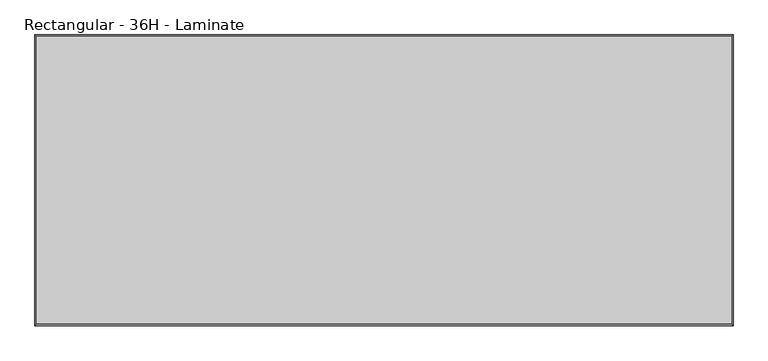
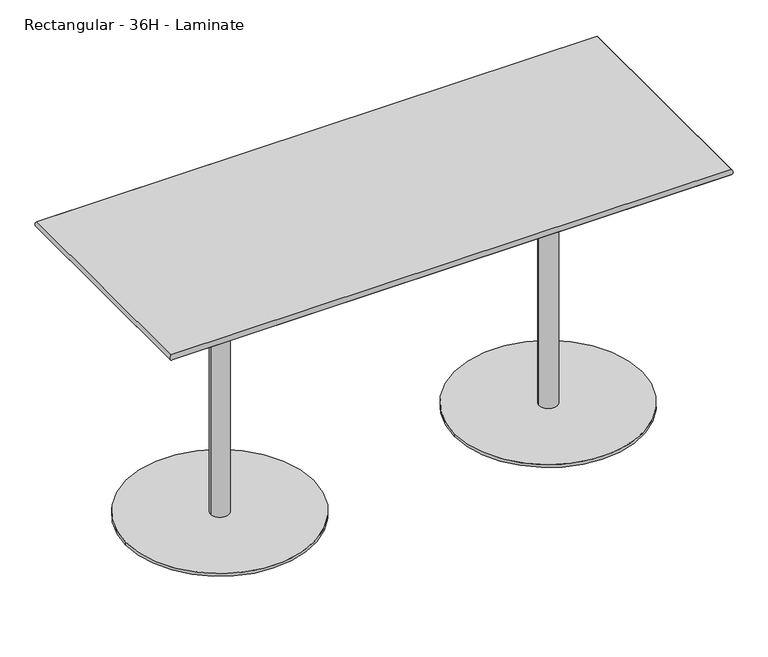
"""IFC4 building model written with IfcOpenShell, lengths in millimetres: furniture geometry, Steelcase Coalesse - Enea - Table - Double Base : Rectangular - 36H - Laminate."""

from ifc_helpers import new_model, si_unit, point, frame, frame_2d, origin, origin_with_axes, place, context, project, spatial, polyline, circle_curve, ellipse_curve, trimmed, segment, composite_curve, outline, extrude, source, transform, mapped, element, save
from ifc_brep_helpers import plane_surface, cylinder_surface, advanced_brep


def rectangular_36h_laminate_8bdba8d7(model_context):
    return source(origin(), model_context, "Body", "SolidModel", [
        advanced_brep(
        [(-1205.8132353, -914.4181244, 914.4), (-1205.8132353, -914.4181244, 895.35), (614.3872896, -914.4181244, 895.35), (614.3872896, -914.4181244, 914.4), (614.3872896, -161.0175995, 895.35), (614.3872896, -161.0175995, 914.4), (-1205.8132353, -161.0175995, 895.35), (-1205.8132353, -161.0175995, 914.4)],
        [
            (0, 1, ellipse_curve(frame((-1196.3937054, -904.9985945, 904.875), z_axis=(0.7071067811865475, -0.7071067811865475, 0.0), x_axis=(-0.7071067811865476, -0.7071067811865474, 0.0)), 18.9448235, 13.3960131)),
            (1, 2),
            (2, 3, ellipse_curve(frame((604.9677598, -904.9985945, 904.875), z_axis=(-0.7071067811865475, -0.7071067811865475, 0.0), x_axis=(-0.7071067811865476, 0.7071067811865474, 0.0)), 18.9448235, 13.3960131)),
            (3, 0),
            (1, 0),
            (3, 2),
            (2, 4),
            (4, 5, ellipse_curve(frame((604.9677598, -170.4371294, 904.875), z_axis=(0.7071067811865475, -0.7071067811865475, 0.0), x_axis=(-0.7071067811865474, -0.7071067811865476, 0.0)), 18.9448235, 13.3960131)),
            (5, 3),
            (5, 4),
            (4, 6),
            (6, 7, ellipse_curve(frame((-1196.3937054, -170.4371294, 904.875), z_axis=(0.7071067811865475, 0.7071067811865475, 0.0), x_axis=(0.7071067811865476, -0.7071067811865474, 0.0)), 18.9448235, 13.3960131)),
            (7, 5),
            (7, 6),
            (6, 1),
            (0, 7),
        ],
        [
            cylinder_surface(frame((-1205.8132353, -904.9985945, 904.875), z_axis=(-1.0, 0.0, 0.0), x_axis=(0.0, 1.0, 0.0)), 13.3960131),
            plane_surface(frame((-1205.8132353, -914.4181244, 914.4), z_axis=(0.0, 1.0, 0.0), x_axis=(1.0, 0.0, 0.0))),
            cylinder_surface(frame((604.9677598, -914.4181244, 904.875), z_axis=(0.0, -1.0, 0.0), x_axis=(-1.0, 0.0, 0.0)), 13.3960131),
            plane_surface(frame((614.3872896, -914.4181244, 914.4), z_axis=(-1.0, 0.0, 0.0), x_axis=(0.0, 1.0, 0.0))),
            cylinder_surface(frame((614.3872896, -170.4371294, 904.875), z_axis=(1.0, 0.0, 0.0), x_axis=(0.0, -1.0, 0.0)), 13.3960131),
            plane_surface(frame((614.3872896, -161.0175995, 914.4), z_axis=(0.0, -1.0, 0.0), x_axis=(-1.0, 0.0, 0.0))),
            cylinder_surface(frame((-1196.3937054, -161.0175995, 904.875), z_axis=(0.0, 1.0, 0.0), x_axis=(1.0, 0.0, 0.0)), 13.3960131),
            plane_surface(frame((-1205.8132353, -161.0175995, 914.4), z_axis=(1.0, 0.0, 0.0), x_axis=(0.0, -1.0, 0.0))),
        ],
        [
            (0, [[1, 2, 3, 4]]),
            (1, [[5, -4, 6, -2]]),
            (2, [[-3, 7, 8, 9]]),
            (3, [[-6, -9, 10, -7]]),
            (4, [[-8, 11, 12, 13]]),
            (5, [[-10, -13, 14, -11]]),
            (6, [[-12, 15, -1, 16]]),
            (7, [[-14, -16, -5, -15]]),
        ],
    ),
        extrude(outline(polyline([(614.3872896, -161.0175995), (614.3872896, -914.4181244), (-1205.8132353, -914.4181244), (-1205.8132353, -161.0175995), (614.3872896, -161.0175995)])), frame((0.0, 0.0, 895.35), z_axis=(0.0, 0.0, 1.0), x_axis=(1.0, 0.0, 0.0)), (0.0, 0.0, 1.0), 19.05),
        extrude(outline(composite_curve([segment(trimmed(circle_curve(frame_2d((-829.113029, -284.0746893)), 25.4), [point((-803.713029, -284.0746893))], [point((-854.513029, -284.0746893))], False, "CARTESIAN"), True, "CONTINUOUS"), segment(trimmed(circle_curve(frame_2d((-829.113029, -284.0746893)), 25.4), [point((-854.513029, -284.0746893))], [point((-803.713029, -284.0746893))], False, "CARTESIAN"), True, "CONTINUOUS")], self_intersect=False)), origin_with_axes(), (0.0, 0.0, 1.0), 6.35),
        extrude(outline(composite_curve([segment(trimmed(circle_curve(frame_2d((-1082.7563397, -537.3772238)), 25.4), [point((-1057.3563397, -537.3772238))], [point((-1108.1563397, -537.3772238))], False, "CARTESIAN"), True, "CONTINUOUS"), segment(trimmed(circle_curve(frame_2d((-1082.7563397, -537.3772238)), 25.4), [point((-1108.1563397, -537.3772238))], [point((-1057.3563397, -537.3772238))], False, "CARTESIAN"), True, "CONTINUOUS")], self_intersect=False)), origin_with_axes(), (0.0, 0.0, 1.0), 6.35),
        extrude(outline(composite_curve([segment(trimmed(circle_curve(frame_2d((-575.4697182, -537.3772238)), 25.4), [point((-550.0697182, -537.3772238))], [point((-600.8697182, -537.3772238))], False, "CARTESIAN"), True, "CONTINUOUS"), segment(trimmed(circle_curve(frame_2d((-575.4697182, -537.3772238)), 25.4), [point((-600.8697182, -537.3772238))], [point((-550.0697182, -537.3772238))], False, "CARTESIAN"), True, "CONTINUOUS")], self_intersect=False)), origin_with_axes(), (0.0, 0.0, 1.0), 6.35),
        extrude(outline(composite_curve([segment(trimmed(circle_curve(frame_2d((-829.113029, -790.6797584)), 25.4), [point((-803.713029, -790.6797584))], [point((-854.513029, -790.6797584))], False, "CARTESIAN"), True, "CONTINUOUS"), segment(trimmed(circle_curve(frame_2d((-829.113029, -790.6797584)), 25.4), [point((-854.513029, -790.6797584))], [point((-803.713029, -790.6797584))], False, "CARTESIAN"), True, "CONTINUOUS")], self_intersect=False)), origin_with_axes(), (0.0, 0.0, 1.0), 6.35),
        extrude(outline(composite_curve([segment(trimmed(circle_curve(frame_2d((-829.113029, -537.718)), 304.8), [point((-1133.913029, -537.718))], [point((-524.313029, -537.718))], False, "CARTESIAN"), True, "CONTINUOUS"), segment(trimmed(circle_curve(frame_2d((-829.113029, -537.718)), 304.8), [point((-524.313029, -537.718))], [point((-1133.913029, -537.718))], False, "CARTESIAN"), True, "CONTINUOUS")], self_intersect=False)), frame((0.0, 0.0, 6.35), z_axis=(0.0, 0.0, 1.0), x_axis=(1.0, 0.0, 0.0)), (0.0, 0.0, 1.0), 9.525),
        extrude(outline(composite_curve([segment(trimmed(circle_curve(frame_2d((-829.1133197, -537.7179273)), 30.0214725), [point((-859.1347922, -537.7179273))], [point((-799.0918471, -537.7179273))], False, "CARTESIAN"), True, "CONTINUOUS"), segment(trimmed(circle_curve(frame_2d((-829.1133197, -537.7179273)), 30.0214725), [point((-799.0918471, -537.7179273))], [point((-859.1347922, -537.7179273))], False, "CARTESIAN"), True, "CONTINUOUS")], self_intersect=False)), frame((0.0, 0.0, 15.875), z_axis=(0.0, 0.0, 1.0), x_axis=(1.0, 0.0, 0.0)), (0.0, 0.0, 1.0), 879.475),
        extrude(outline(composite_curve([segment(trimmed(circle_curve(frame_2d((237.686971, -284.0746893)), 25.4), [point((212.286971, -284.0746893))], [point((263.086971, -284.0746893))], False, "CARTESIAN"), True, "CONTINUOUS"), segment(trimmed(circle_curve(frame_2d((237.686971, -284.0746893)), 25.4), [point((263.086971, -284.0746893))], [point((212.286971, -284.0746893))], False, "CARTESIAN"), True, "CONTINUOUS")], self_intersect=False)), origin_with_axes(), (0.0, 0.0, 1.0), 6.35),
        extrude(outline(composite_curve([segment(trimmed(circle_curve(frame_2d((491.3302818, -537.3772238)), 25.4), [point((465.9302818, -537.3772238))], [point((516.7302818, -537.3772238))], False, "CARTESIAN"), True, "CONTINUOUS"), segment(trimmed(circle_curve(frame_2d((491.3302818, -537.3772238)), 25.4), [point((516.7302818, -537.3772238))], [point((465.9302818, -537.3772238))], False, "CARTESIAN"), True, "CONTINUOUS")], self_intersect=False)), origin_with_axes(), (0.0, 0.0, 1.0), 6.35),
        extrude(outline(composite_curve([segment(trimmed(circle_curve(frame_2d((-15.9563397, -537.3772238)), 25.4), [point((-41.3563397, -537.3772238))], [point((9.4436603, -537.3772238))], False, "CARTESIAN"), True, "CONTINUOUS"), segment(trimmed(circle_curve(frame_2d((-15.9563397, -537.3772238)), 25.4), [point((9.4436603, -537.3772238))], [point((-41.3563397, -537.3772238))], False, "CARTESIAN"), True, "CONTINUOUS")], self_intersect=False)), origin_with_axes(), (0.0, 0.0, 1.0), 6.35),
        extrude(outline(composite_curve([segment(trimmed(circle_curve(frame_2d((237.686971, -790.6797584)), 25.4), [point((212.286971, -790.6797584))], [point((263.086971, -790.6797584))], False, "CARTESIAN"), True, "CONTINUOUS"), segment(trimmed(circle_curve(frame_2d((237.686971, -790.6797584)), 25.4), [point((263.086971, -790.6797584))], [point((212.286971, -790.6797584))], False, "CARTESIAN"), True, "CONTINUOUS")], self_intersect=False)), origin_with_axes(), (0.0, 0.0, 1.0), 6.35),
        extrude(outline(composite_curve([segment(trimmed(circle_curve(frame_2d((237.686971, -537.718)), 304.8), [point((542.486971, -537.718))], [point((-67.113029, -537.718))], False, "CARTESIAN"), True, "CONTINUOUS"), segment(trimmed(circle_curve(frame_2d((237.686971, -537.718)), 304.8), [point((-67.113029, -537.718))], [point((542.486971, -537.718))], False, "CARTESIAN"), True, "CONTINUOUS")], self_intersect=False)), frame((0.0, 0.0, 6.35), z_axis=(0.0, 0.0, 1.0), x_axis=(1.0, 0.0, 0.0)), (0.0, 0.0, 1.0), 9.525),
        extrude(outline(composite_curve([segment(trimmed(circle_curve(frame_2d((237.6872617, -537.7179273)), 30.0214725), [point((267.7087342, -537.7179273))], [point((207.6657892, -537.7179273))], False, "CARTESIAN"), True, "CONTINUOUS"), segment(trimmed(circle_curve(frame_2d((237.6872617, -537.7179273)), 30.0214725), [point((207.6657892, -537.7179273))], [point((267.7087342, -537.7179273))], False, "CARTESIAN"), True, "CONTINUOUS")], self_intersect=False)), frame((0.0, 0.0, 15.875), z_axis=(0.0, 0.0, 1.0), x_axis=(1.0, 0.0, 0.0)), (0.0, 0.0, 1.0), 879.475),
    ])


if __name__ == "__main__":
    model = new_model("IFC4")
    model_context = context("Model", 3, world=origin())
    ifc_project = project(units=[si_unit("LENGTHUNIT", "METRE", prefix="MILLI")], contexts=[model_context])
    site = spatial("IfcSite", under=ifc_project)
    building = spatial("IfcBuilding", under=site)
    placement = place(None, origin())
    rectangular_36h_laminate_shape = rectangular_36h_laminate_8bdba8d7(model_context)
    element("IfcFurniture", 1, ObjectType="Steelcase Coalesse - Enea - Table - Double Base : Rectangular - 36H - Laminate", at=placement, inside=building, context=model_context, shape_type="MappedRepresentation", body=[
        mapped(rectangular_36h_laminate_shape, transform((0.0, 0.0, 0.0), x_axis=(1.0, 0.0, 0.0), y_axis=(0.0, 1.0, 0.0), z_axis=(0.0, 0.0, 1.0))),
    ])
    save(model, "model.ifc")
